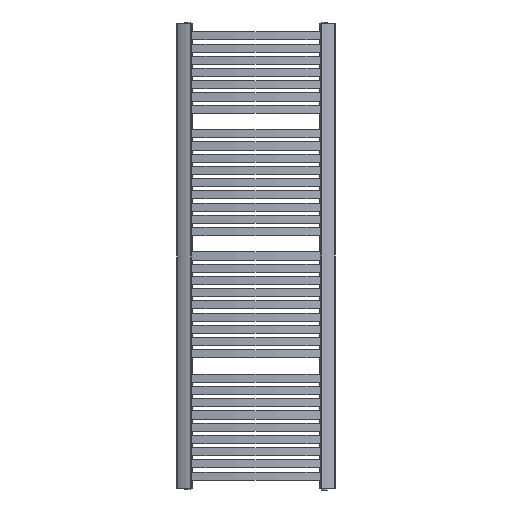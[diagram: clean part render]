
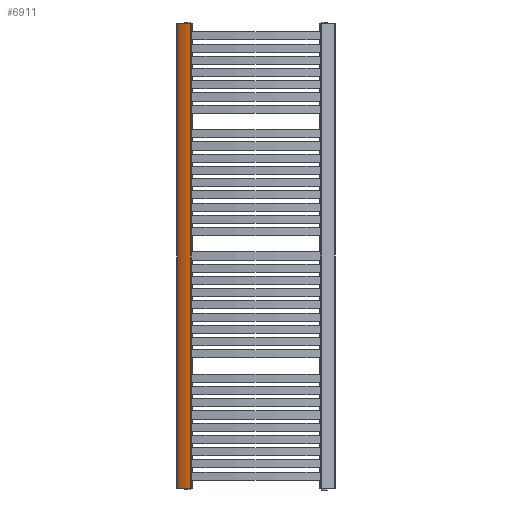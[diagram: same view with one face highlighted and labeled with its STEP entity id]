
A CAD part, left-side view. The second image highlights one B-rep face of the part: STEP entity #6911.
In plain terms, the highlighted cylindrical face has radius 101.419 mm (diameter 202.839 mm), a partial arc.
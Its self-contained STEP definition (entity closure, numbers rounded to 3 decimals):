
#449=CYLINDRICAL_SURFACE('',#7598,101.419);
#754=CIRCLE('',#7599,101.419);
#755=CIRCLE('',#7600,101.419);
#1096=FACE_OUTER_BOUND('',#1472,.T.);
#1472=EDGE_LOOP('',(#5987,#5988,#5989,#5990));
#2151=LINE('',#11607,#2795);
#2157=LINE('',#11634,#2801);
#2795=VECTOR('',#9509,10.);
#2801=VECTOR('',#9541,10.);
#3433=VERTEX_POINT('',#11600);
#3436=VERTEX_POINT('',#11605);
#3443=VERTEX_POINT('',#11630);
#3444=VERTEX_POINT('',#11632);
#4384=EDGE_CURVE('',#3433,#3436,#2151,.T.);
#4396=EDGE_CURVE('',#3443,#3433,#754,.T.);
#4397=EDGE_CURVE('',#3444,#3436,#755,.T.);
#4398=EDGE_CURVE('',#3443,#3444,#2157,.T.);
#5987=ORIENTED_EDGE('',*,*,#4396,.T.);
#5988=ORIENTED_EDGE('',*,*,#4384,.T.);
#5989=ORIENTED_EDGE('',*,*,#4397,.F.);
#5990=ORIENTED_EDGE('',*,*,#4398,.F.);
#6911=ADVANCED_FACE('',(#1096),#449,.T.);
#7598=AXIS2_PLACEMENT_3D('',#11629,#9535,#9536);
#7599=AXIS2_PLACEMENT_3D('',#11631,#9537,#9538);
#7600=AXIS2_PLACEMENT_3D('',#11633,#9539,#9540);
#9509=DIRECTION('',(0.,0.,1.));
#9535=DIRECTION('center_axis',(0.,0.,1.));
#9536=DIRECTION('ref_axis',(1.,-0.015,0.));
#9537=DIRECTION('center_axis',(0.,0.,1.));
#9538=DIRECTION('ref_axis',(1.,-0.015,0.));
#9539=DIRECTION('center_axis',(0.,0.,1.));
#9540=DIRECTION('ref_axis',(1.,-0.015,0.));
#9541=DIRECTION('',(0.,0.,1.));
#11600=CARTESIAN_POINT('',(5.308,22.798,0.));
#11605=CARTESIAN_POINT('',(5.308,22.798,1710.));
#11607=CARTESIAN_POINT('',(5.308,22.798,0.));
#11629=CARTESIAN_POINT('Origin',(-84.408,-24.499,0.));
#11630=CARTESIAN_POINT('',(17.,-26.062,0.));
#11631=CARTESIAN_POINT('Origin',(-84.408,-24.499,0.));
#11632=CARTESIAN_POINT('',(17.,-26.062,1710.));
#11633=CARTESIAN_POINT('Origin',(-84.408,-24.499,1710.));
#11634=CARTESIAN_POINT('',(17.,-26.062,0.));
